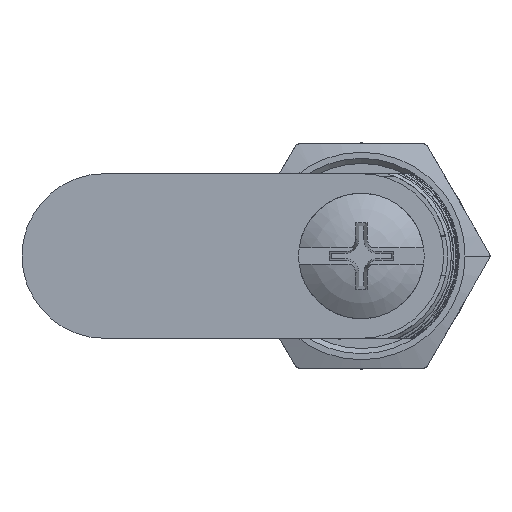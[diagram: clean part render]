
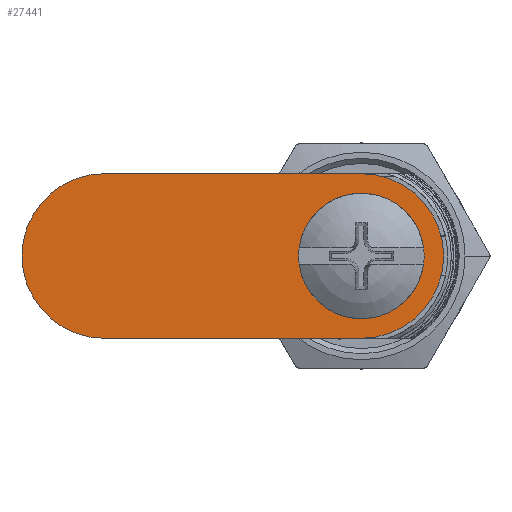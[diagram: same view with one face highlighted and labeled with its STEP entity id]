
A CAD part, front view. The second image highlights one B-rep face of the part: STEP entity #27441.
In plain terms, the highlighted planar face has unit normal (0, -1, 0) as drawn and (0, 0, -1) by its records, which use the part's own axes.
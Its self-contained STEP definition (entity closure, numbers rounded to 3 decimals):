
#27284=CARTESIAN_POINT('',(0.,0.,0.));
#27285=DIRECTION('',(0.,0.,1.));
#27286=DIRECTION('',(0.,1.,0.));
#27287=AXIS2_PLACEMENT_3D('',#27284,#27285,#27286);
#27289=DIRECTION('',(1.,0.,0.));
#27290=VECTOR('',#27289,25.);
#27291=CARTESIAN_POINT('',(0.,-8.,0.));
#27292=LINE('',#27291,#27290);
#27293=CARTESIAN_POINT('',(25.,0.,0.));
#27294=DIRECTION('',(0.,0.,1.));
#27295=DIRECTION('',(0.,-1.,0.));
#27296=AXIS2_PLACEMENT_3D('',#27293,#27294,#27295);
#27298=DIRECTION('',(-1.,0.,0.));
#27299=VECTOR('',#27298,25.);
#27300=CARTESIAN_POINT('',(25.,8.,0.));
#27301=LINE('',#27300,#27299);
#27302=DIRECTION('',(1.,0.,0.));
#27303=VECTOR('',#27302,8.);
#27304=CARTESIAN_POINT('',(-4.,4.,0.));
#27305=LINE('',#27304,#27303);
#27306=DIRECTION('',(0.,-1.,0.));
#27307=VECTOR('',#27306,8.);
#27308=CARTESIAN_POINT('',(4.,4.,0.));
#27309=LINE('',#27308,#27307);
#27310=DIRECTION('',(-1.,0.,0.));
#27311=VECTOR('',#27310,8.);
#27312=CARTESIAN_POINT('',(4.,-4.,0.));
#27313=LINE('',#27312,#27311);
#27314=DIRECTION('',(0.,1.,0.));
#27315=VECTOR('',#27314,8.);
#27316=CARTESIAN_POINT('',(-4.,-4.,0.));
#27317=LINE('',#27316,#27315);
#27384=CARTESIAN_POINT('',(0.,8.,0.));
#27385=CARTESIAN_POINT('',(0.,-8.,0.));
#27386=VERTEX_POINT('',#27384);
#27387=VERTEX_POINT('',#27385);
#27388=CARTESIAN_POINT('',(25.,-8.,0.));
#27389=VERTEX_POINT('',#27388);
#27390=CARTESIAN_POINT('',(25.,8.,0.));
#27391=VERTEX_POINT('',#27390);
#27392=CARTESIAN_POINT('',(-4.,4.,0.));
#27393=CARTESIAN_POINT('',(4.,4.,0.));
#27394=VERTEX_POINT('',#27392);
#27395=VERTEX_POINT('',#27393);
#27396=CARTESIAN_POINT('',(4.,-4.,0.));
#27397=VERTEX_POINT('',#27396);
#27398=CARTESIAN_POINT('',(-4.,-4.,0.));
#27399=VERTEX_POINT('',#27398);
#27416=CARTESIAN_POINT('',(0.,0.,0.));
#27417=DIRECTION('',(0.,0.,1.));
#27418=DIRECTION('',(1.,0.,0.));
#27419=AXIS2_PLACEMENT_3D('',#27416,#27417,#27418);
#27420=PLANE('',#27419);
#27422=ORIENTED_EDGE('',*,*,#27421,.T.);
#27424=ORIENTED_EDGE('',*,*,#27423,.T.);
#27426=ORIENTED_EDGE('',*,*,#27425,.T.);
#27428=ORIENTED_EDGE('',*,*,#27427,.T.);
#27429=EDGE_LOOP('',(#27422,#27424,#27426,#27428));
#27430=FACE_OUTER_BOUND('',#27429,.F.);
#27432=ORIENTED_EDGE('',*,*,#27431,.T.);
#27434=ORIENTED_EDGE('',*,*,#27433,.T.);
#27436=ORIENTED_EDGE('',*,*,#27435,.T.);
#27438=ORIENTED_EDGE('',*,*,#27437,.T.);
#27439=EDGE_LOOP('',(#27432,#27434,#27436,#27438));
#27440=FACE_BOUND('',#27439,.F.);
#27441=ADVANCED_FACE('',(#27430,#27440),#27420,.F.);
#27288=CIRCLE('',#27287,8.);
#27297=CIRCLE('',#27296,8.);
#27421=EDGE_CURVE('',#27386,#27387,#27288,.T.);
#27423=EDGE_CURVE('',#27387,#27389,#27292,.T.);
#27425=EDGE_CURVE('',#27389,#27391,#27297,.T.);
#27427=EDGE_CURVE('',#27391,#27386,#27301,.T.);
#27431=EDGE_CURVE('',#27394,#27395,#27305,.T.);
#27433=EDGE_CURVE('',#27395,#27397,#27309,.T.);
#27435=EDGE_CURVE('',#27397,#27399,#27313,.T.);
#27437=EDGE_CURVE('',#27399,#27394,#27317,.T.);
